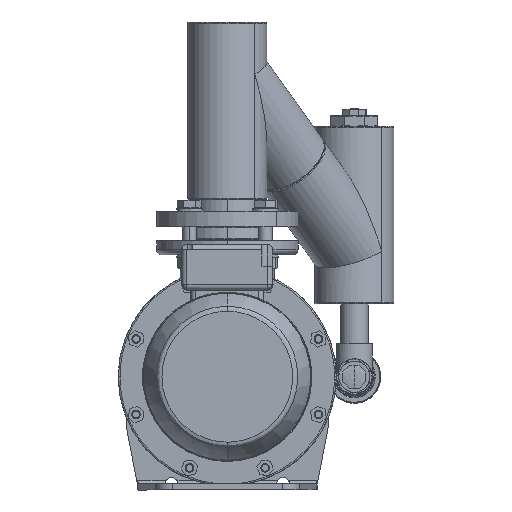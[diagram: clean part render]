
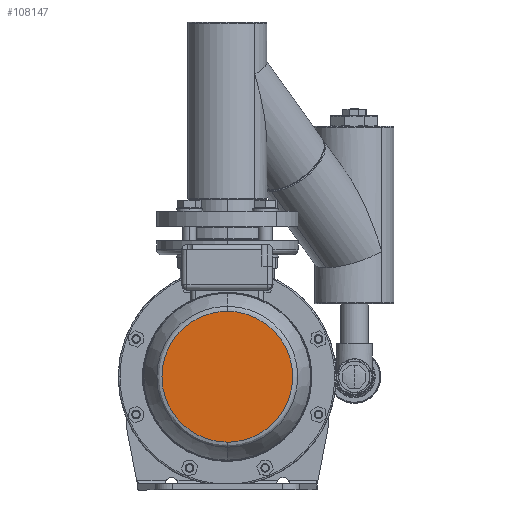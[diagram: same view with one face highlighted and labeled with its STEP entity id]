
A CAD part, front view. The second image highlights one B-rep face of the part: STEP entity #108147.
In plain terms, the highlighted planar face has unit normal (0, -1, 0).
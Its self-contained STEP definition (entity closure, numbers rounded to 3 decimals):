
#30377 = PLANE ( 'NONE',  #30378 ) ;
#30378 = AXIS2_PLACEMENT_3D ( 'NONE', #30417, #30379, #30438 ) ;
#30379 = DIRECTION ( 'NONE',  ( 0., -1., 0. ) ) ;
#30415 = FACE_OUTER_BOUND ( 'NONE', #108085, .T. ) ;
#30417 = CARTESIAN_POINT ( 'NONE',  ( -154.478, -684.387, 25. ) ) ;
#30430 = CARTESIAN_POINT ( 'NONE',  ( -154.478, -684.387, -51.193 ) ) ;
#30431 = CARTESIAN_POINT ( 'NONE',  ( -2.093, -684.387, -51.193 ) ) ;
#30432 = CARTESIAN_POINT ( 'NONE',  ( -2.093, -684.387, 101.193 ) ) ;
#30433 = CARTESIAN_POINT ( 'NONE',  ( -154.478, -684.387, 101.193 ) ) ;
#30434 =( BOUNDED_CURVE ( )  B_SPLINE_CURVE ( 3, ( #30433, #30432, #30431, #30430 ),
 .UNSPECIFIED., .F., .T. ) 
 B_SPLINE_CURVE_WITH_KNOTS ( ( 4, 4 ),
 ( 0., 1. ),
 .UNSPECIFIED. ) 
 CURVE ( )  GEOMETRIC_REPRESENTATION_ITEM ( )  RATIONAL_B_SPLINE_CURVE ( ( 1., 0.333, 0.333, 1. ) ) 
 REPRESENTATION_ITEM ( '' )  );
#30438 = DIRECTION ( 'NONE',  ( 1., 0., 0. ) ) ;
#61839 = EDGE_CURVE ( 'NONE', #62432, #62104, #101203, .T. ) ;
#62104 = VERTEX_POINT ( 'NONE', #101258 ) ;
#62432 = VERTEX_POINT ( 'NONE', #101368 ) ;
#101198 = CARTESIAN_POINT ( 'NONE',  ( -154.478, -684.387, 101.193 ) ) ;
#101199 = CARTESIAN_POINT ( 'NONE',  ( -306.864, -684.387, 101.193 ) ) ;
#101200 = CARTESIAN_POINT ( 'NONE',  ( -306.864, -684.387, -51.193 ) ) ;
#101201 = CARTESIAN_POINT ( 'NONE',  ( -154.478, -684.387, -51.193 ) ) ;
#101203 =( BOUNDED_CURVE ( )  B_SPLINE_CURVE ( 3, ( #101201, #101200, #101199, #101198 ),
 .UNSPECIFIED., .F., .T. ) 
 B_SPLINE_CURVE_WITH_KNOTS ( ( 4, 4 ),
 ( 0., 1. ),
 .UNSPECIFIED. ) 
 CURVE ( )  GEOMETRIC_REPRESENTATION_ITEM ( )  RATIONAL_B_SPLINE_CURVE ( ( 1., 0.333, 0.333, 1. ) ) 
 REPRESENTATION_ITEM ( '' )  );
#101258 = CARTESIAN_POINT ( 'NONE',  ( -154.478, -684.387, 101.193 ) ) ;
#101368 = CARTESIAN_POINT ( 'NONE',  ( -154.478, -684.387, -51.193 ) ) ;
#107264 = ORIENTED_EDGE ( 'NONE', *, *, #61839, .F. ) ;
#108085 = EDGE_LOOP ( 'NONE', ( #107264, #108323 ) ) ;
#108147 = ADVANCED_FACE ( 'NONE', ( #30415 ), #30377, .T. ) ;
#108231 = EDGE_CURVE ( 'NONE', #62104, #62432, #30434, .T. ) ;
#108323 = ORIENTED_EDGE ( 'NONE', *, *, #108231, .F. ) ;
